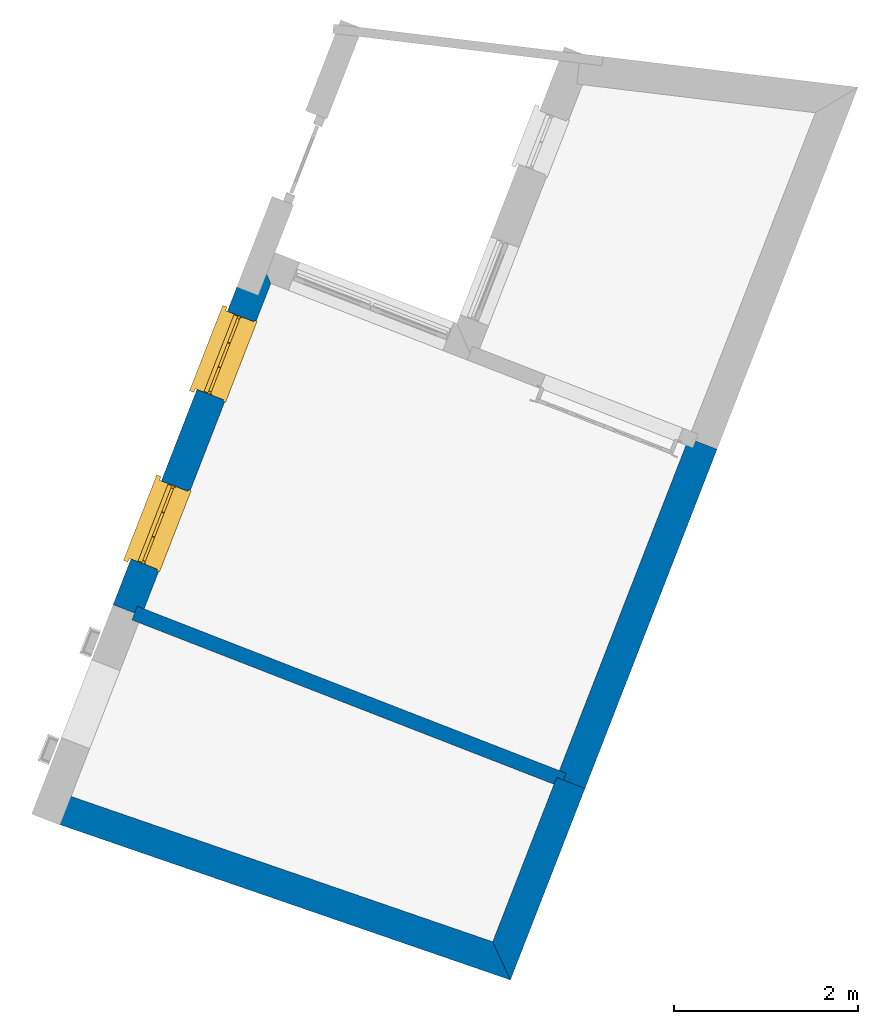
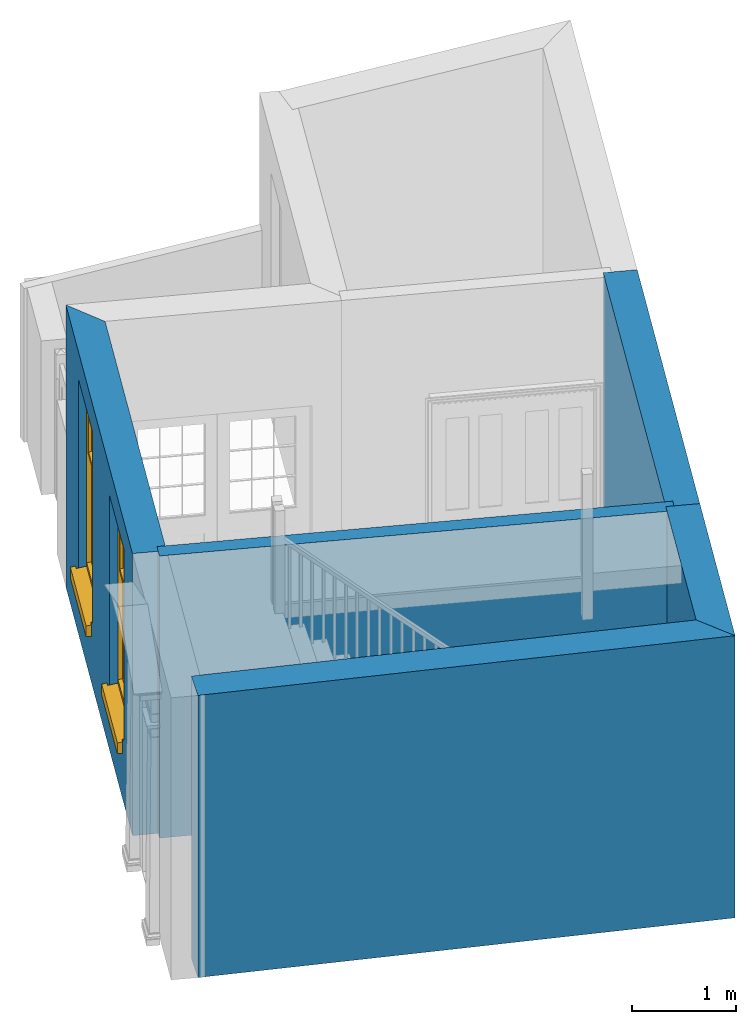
# One storey, part 3 of 6: 5 walls, 2 windows, 2 openings.
"""IFC4 building model written with IfcOpenShell, lengths in metres."""

from ifc_helpers import new_model, si_unit, frame, origin, origin_with_axes, place, context, subcontext, project, spatial, polyline, outline, extrude, faceted_brep, source, transform, mapped, material, layer, layer_set, layer_usage, type_object, type_shapes, element, fill, save


model = new_model("IFC4")

# Units and contexts
model_context = context("Model", 3, world=origin_with_axes())
body_context = subcontext(model_context, "Body", "Model", "MODEL_VIEW")
ifc_project = project(units=[si_unit("PLANEANGLEUNIT", "RADIAN"), si_unit("MASSUNIT", "GRAM", prefix="KILO"), si_unit("FORCEUNIT", "NEWTON", prefix="KILO"), si_unit("LENGTHUNIT", "METRE"), si_unit("AREAUNIT", "SQUARE_METRE"), si_unit("VOLUMEUNIT", "CUBIC_METRE")], contexts=[model_context, model_context])

# Sites, building, storey
site_1_placement = place(None, origin_with_axes())
site_1 = spatial("IfcSite", under=ifc_project, at=site_1_placement, Name="Tamar")
site_2_placement = place(site_1_placement, origin_with_axes())
site_2 = spatial("IfcSite", under=site_1, at=site_2_placement, Name="Site plot-9", CompositionType="ELEMENT")
building_placement = place(None, origin_with_axes())
building = spatial("IfcBuilding", under=site_2, at=building_placement, Name="Building plot-9", CompositionType="ELEMENT")
storey_placement = place(None, frame((0.0, 0.0, 26.8), z_axis=(0.0, 0.0, 1.0), x_axis=(1.0, 0.0, 0.0)))
storey = spatial("IfcBuildingStorey", under=building, at=storey_placement, Name="plot-9 0", CompositionType="ELEMENT", Elevation=26.8)

# Wall, openings, windows
ifc_material_1 = material(Name="Masonry")
ifc_layer_1 = layer(ifc_material_1, 0.33, ventilated=False)
ifc_layer_set_1 = layer_set([ifc_layer_1], Name="exterior_0.08_0.25")
ifc_layer_usage_1 = layer_usage(ifc_layer_set_1, "AXIS2", "POSITIVE", -0.25)
wall_type_1 = type_object("IfcWallType", Name="exterior_0.08_0.25", PredefinedType="SOLIDWALL", material=ifc_layer_set_1)
wall_1_placement = place(storey_placement, frame((225.850272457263, 320.89499479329, 0.0), z_axis=(0.0, 0.0, 1.0), x_axis=(-0.362808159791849, -0.93186385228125, 0.0)))
wall_1 = element("IfcWall", 1, at=wall_1_placement, inside=storey, type_object=wall_type_1, material=ifc_layer_usage_1, Name="exterior", context=body_context, shape_type="SweptSolid", body=[
    extrude(outline(polyline([(0.0799999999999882, 0.0800000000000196), (-0.249999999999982, -0.250000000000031), (3.95299551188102, -0.250000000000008), (3.95299551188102, 0.080000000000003), (0.0799999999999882, 0.0800000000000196)])), origin_with_axes(), (0.0, 0.0, 1.0), 3.3),
])
opening_1_placement = place(wall_1_placement, frame((0.533248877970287, 0.0, 0.75)))
opening_1 = element("IfcOpeningElement", 2, at=opening_1_placement, cuts=wall_1, Name="My Opening", ObjectType="Opening", context=body_context, shape_type="SweptSolid", body=[
    extrude(outline(polyline([(0.0, -0.269999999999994), (0.909999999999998, -0.270000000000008), (0.909999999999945, 1.09999999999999), (-5.295763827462e-14, 1.1), (0.0, -0.269999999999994)])), origin_with_axes(), (0.0, 0.0, 1.0), 2.23),
])
opening_2_placement = place(wall_1_placement, frame((2.5097466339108, 0.0, 0.75)))
opening_2 = element("IfcOpeningElement", 3, at=opening_2_placement, cuts=wall_1, Name="My Opening", ObjectType="Opening", context=body_context, shape_type="SweptSolid", body=[
    extrude(outline(polyline([(0.0, -0.269999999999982), (0.909999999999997, -0.269999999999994), (0.909999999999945, 1.1), (-5.32907051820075e-14, 1.10000000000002), (0.0, -0.269999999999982)])), origin_with_axes(), (0.0, 0.0, 1.0), 2.23),
])
window_type = type_object("IfcWindowType", Name="sash_big_taller", PartitioningType="DOUBLE_PANEL_HORIZONTAL", PredefinedType="NOTDEFINED")
shared_shape = source(origin(), body_context, "Body", "Brep", [
    faceted_brep([(0.033125, 0.145, 1.385209), (0.01, 0.145, 1.385209), (0.033125, 0.145, 1.786042), (0.876875, 0.145, 1.385209), (0.876875, 0.145, 1.786042), (0.9, 0.145, 1.385209), (0.876875, 0.145, 1.796042), (0.876875, 0.145, 2.196875), (0.9, 0.145, 2.22), (0.033125, 0.145, 2.196875), (0.033125, 0.145, 1.796042), (0.01, 0.145, 2.22), (0.876875, 0.115, 1.786042), (0.876875, 0.115, 1.385209), (0.9, 0.115, 1.347084), (0.033125, 0.115, 2.196875), (0.01, 0.115, 2.22), (0.033125, 0.115, 1.796042), (0.01, 0.115, 1.347084), (0.033125, 0.115, 1.385209), (0.033125, 0.115, 1.786042), (0.876875, 0.115, 2.196875), (0.876875, 0.115, 1.796042), (0.9, 0.115, 2.22), (0.033125, 0.145, 1.347084), (0.01, 0.145, 1.347084), (0.033125, 0.145, 0.94625), (0.876875, 0.145, 1.347084), (0.876875, 0.145, 0.94625), (0.9, 0.145, 1.347084), (0.876875, 0.145, 0.52625), (0.876875, 0.145, 0.125417), (0.9, 0.145, 0.077167), (0.033125, 0.145, 0.125417), (0.033125, 0.145, 0.52625), (0.01, 0.145, 0.077167), (-0.0425, 0.0, 0.01), (-0.0425, -0.05, 0.001667), (0.0, 0.0, 0.01), (0.9525, 0.0, 0.01), (0.91, 0.0, 0.01), (0.9525, -0.05, 0.001667), (-0.02, 0.33, 0.077167), (0.0, 0.33, 0.077167), (-0.02, 0.36, 0.077167), (0.0, 0.19, 0.077167), (0.01, 0.19, 0.077167), (0.91, 0.19, 0.077167), (0.91, 0.33, 0.077167), (0.9, 0.19, 0.077167), (0.93, 0.33, 0.077167), (0.93, 0.36, 0.077167), (0.01, 0.175, 1.385209), (0.9, 0.175, 1.385209), (0.876875, 0.175, 0.125417), (0.876875, 0.175, 0.52625), (0.9, 0.175, 0.077167), (0.876875, 0.175, 0.94625), (0.876875, 0.175, 1.347084), (0.033125, 0.175, 0.125417), (0.01, 0.175, 0.077167), (0.033125, 0.175, 0.52625), (0.033125, 0.175, 1.347084), (0.033125, 0.175, 0.94625), (-0.02, 0.33, 0.052167), (-0.02, 0.36, 0.052167), (0.93, 0.36, 0.052167), (0.93, 0.33, 0.052167), (0.91, 0.33, 0.052167), (0.0, 0.33, 0.052167), (0.91, 0.1, 0.026667), (0.0, 0.1, 0.026667), (-0.0425, -0.05, -0.123333), (0.9525, -0.05, -0.123333), (-0.0425, 0.0, -0.123333), (0.9525, 0.0, -0.123333), (0.01, 0.19, 2.22), (0.9, 0.19, 2.22), (0.0, 0.19, 2.23), (0.91, 0.19, 2.23), (0.01, 0.1, 0.077167), (0.9, 0.1, 0.077167), (0.592292, 0.145, 0.125417), (0.592292, 0.175, 0.125417), (0.317708, 0.175, 0.125417), (0.317708, 0.145, 0.125417), (0.592292, 0.145, 0.53625), (0.317708, 0.145, 0.53625), (0.317708, 0.145, 0.52625), (0.592292, 0.145, 0.52625), (0.592292, 0.175, 0.53625), (0.317708, 0.175, 0.53625), (0.592292, 0.115, 1.796042), (0.592292, 0.145, 1.796042), (0.317708, 0.145, 1.796042), (0.317708, 0.115, 1.796042), (0.317708, 0.115, 1.786042), (0.592292, 0.115, 1.786042), (0.317708, 0.145, 1.786042), (0.592292, 0.145, 1.786042), (0.602292, 0.115, 1.786042), (0.592292, 0.115, 1.385209), (0.602292, 0.115, 1.385209), (0.602292, 0.145, 1.385209), (0.592292, 0.145, 1.385209), (0.602292, 0.145, 1.786042), (0.876875, 0.145, 0.53625), (0.876875, 0.175, 0.53625), (0.602292, 0.175, 0.53625), (0.602292, 0.145, 0.53625), (0.317708, 0.175, 0.52625), (0.307708, 0.175, 0.125417), (0.307708, 0.175, 0.52625), (0.602292, 0.175, 0.52625), (0.602292, 0.175, 0.125417), (0.592292, 0.175, 0.52625), (0.307708, 0.175, 0.53625), (0.033125, 0.175, 0.53625), (0.317708, 0.175, 1.347084), (0.317708, 0.175, 0.94625), (0.307708, 0.175, 0.94625), (0.307708, 0.175, 1.347084), (0.602292, 0.175, 1.347084), (0.602292, 0.175, 0.94625), (0.592292, 0.175, 0.94625), (0.592292, 0.175, 1.347084), (0.307708, 0.145, 0.52625), (0.307708, 0.145, 0.125417), (0.307708, 0.145, 0.53625), (0.033125, 0.145, 0.53625), (0.307708, 0.145, 1.347084), (0.307708, 0.145, 0.94625), (0.592292, 0.145, 1.347084), (0.592292, 0.145, 0.94625), (0.317708, 0.145, 0.94625), (0.317708, 0.145, 1.347084), (0.602292, 0.145, 0.94625), (0.602292, 0.145, 1.347084), (0.602292, 0.145, 0.52625), (0.602292, 0.145, 0.125417), (0.307708, 0.115, 1.796042), (0.307708, 0.115, 1.786042), (0.307708, 0.115, 1.385209), (0.317708, 0.115, 1.385209), (0.317708, 0.115, 2.196875), (0.307708, 0.115, 2.196875), (0.602292, 0.115, 2.196875), (0.592292, 0.115, 2.196875), (0.602292, 0.115, 1.796042), (0.602292, 0.145, 1.796042), (0.307708, 0.145, 1.796042), (0.307708, 0.145, 2.196875), (0.317708, 0.145, 2.196875), (0.592292, 0.145, 2.196875), (0.602292, 0.145, 2.196875), (0.307708, 0.145, 1.786042), (0.317708, 0.145, 1.385209), (0.307708, 0.145, 1.385209), (0.876875, 0.175, 0.93625), (0.033125, 0.175, 0.93625), (0.033125, 0.145, 0.93625), (0.876875, 0.145, 0.93625), (0.91, 0.1, 2.23), (0.9, 0.1, 2.22), (0.01, 0.1, 2.22), (0.0, 0.1, 2.23), (0.91, 0.0, 0.0), (0.0, 0.0, 0.0), (0.91, 0.33, 0.0), (0.0, 0.33, 0.0), (0.317708, 0.145, 0.93625), (0.592292, 0.145, 0.93625), (0.317708, 0.175, 0.93625), (0.307708, 0.175, 0.93625), (0.602292, 0.175, 0.93625), (0.592292, 0.175, 0.93625), (0.307708, 0.145, 0.93625), (0.602292, 0.145, 0.93625)], [[[0, 1, 2]], [[3, 4, 5]], [[6, 7, 8]], [[9, 10, 11]], [[12, 13, 14]], [[15, 16, 17]], [[18, 19, 20]], [[21, 22, 23]], [[24, 25, 26]], [[27, 28, 29]], [[30, 31, 32]], [[33, 34, 35]], [[14, 27, 29]], [[25, 24, 18]], [[36, 37, 38]], [[39, 40, 41]], [[42, 43, 44]], [[45, 46, 43]], [[47, 48, 49]], [[50, 51, 48]], [[1, 0, 52]], [[5, 53, 3]], [[54, 55, 56]], [[57, 58, 53]], [[59, 60, 61]], [[62, 63, 52]], [[48, 43, 46, 49]], [[51, 44, 43, 48]], [[64, 42, 44, 65]], [[65, 44, 51, 66]], [[66, 51, 50, 67]], [[65, 66, 68, 69]], [[60, 56, 49, 46]], [[70, 71, 38, 40]], [[37, 41, 40, 38]], [[37, 72, 73, 41]], [[74, 75, 73, 72]], [[8, 11, 76, 77]], [[76, 78, 79, 77]], [[32, 35, 80, 81]], [[81, 80, 71, 70]], [[82, 83, 84, 85]], [[86, 87, 88, 89]], [[86, 90, 91, 87]], [[92, 93, 94, 95]], [[92, 95, 96, 97]], [[96, 98, 99, 97]], [[100, 97, 101, 102]], [[103, 104, 99, 105]], [[97, 99, 104, 101]], [[102, 103, 105, 100]], [[106, 107, 108, 109]], [[110, 84, 111, 112]], [[113, 114, 83, 115]], [[116, 112, 61, 117]], [[90, 115, 110, 91]], [[118, 119, 120, 121]], [[122, 123, 124, 125]], [[113, 108, 107, 55]], [[126, 112, 111, 127]], [[34, 61, 112, 126]], [[89, 115, 83, 82]], [[88, 110, 115, 89]], [[85, 84, 110, 88]], [[128, 116, 117, 129]], [[130, 121, 120, 131]], [[132, 125, 124, 133]], [[134, 119, 118, 135]], [[136, 123, 122, 137]], [[138, 113, 55, 30]], [[139, 114, 113, 138]], [[138, 30, 106, 109]], [[88, 126, 127, 85]], [[138, 89, 82, 139]], [[137, 132, 133, 136]], [[128, 129, 34, 126]], [[135, 130, 131, 134]], [[140, 17, 20, 141]], [[96, 141, 142, 143]], [[144, 145, 140, 95]], [[146, 147, 92, 148]], [[100, 12, 22, 148]], [[149, 6, 4, 105]], [[94, 150, 151, 152]], [[149, 93, 153, 154]], [[99, 98, 94, 93]], [[155, 2, 10, 150]], [[156, 157, 155, 98]], [[141, 155, 157, 142]], [[20, 2, 155, 141]], [[143, 156, 98, 96]], [[140, 150, 10, 17]], [[145, 151, 150, 140]], [[147, 153, 93, 92]], [[95, 94, 152, 144]], [[22, 6, 149, 148]], [[148, 149, 154, 146]], [[100, 105, 4, 12]], [[109, 86, 89, 138]], [[108, 113, 115, 90]], [[91, 110, 112, 116]], [[87, 128, 126, 88]], [[97, 100, 148, 92]], [[141, 96, 95, 140]], [[98, 155, 150, 94]], [[105, 99, 93, 149]], [[143, 101, 104, 156]], [[135, 118, 125, 132]], [[144, 152, 153, 147]], [[127, 111, 59, 33]], [[15, 9, 151, 145]], [[146, 154, 7, 21]], [[31, 54, 114, 139]], [[36, 74, 72, 37]], [[39, 41, 73, 75]], [[18, 14, 101, 143]], [[23, 16, 144, 147]], [[83, 56, 60, 84]], [[52, 53, 125, 118]], [[53, 52, 156, 104]], [[11, 8, 153, 152]], [[14, 18, 135, 132]], [[2, 1, 11, 10]], [[8, 5, 4, 6]], [[57, 53, 56, 158]], [[60, 52, 63, 159]], [[26, 25, 35, 160]], [[32, 29, 28, 161]], [[14, 23, 22, 12]], [[18, 20, 17, 16]], [[19, 0, 2, 20]], [[17, 10, 9, 15]], [[12, 4, 3, 13]], [[21, 7, 6, 22]], [[27, 58, 57, 28]], [[30, 55, 54, 31]], [[33, 59, 61, 34]], [[26, 63, 62, 24]], [[5, 8, 77, 53]], [[76, 11, 1, 52]], [[46, 45, 78, 76]], [[49, 77, 79, 47]], [[70, 162, 163, 81]], [[71, 80, 164, 165]], [[19, 142, 157, 0]], [[102, 13, 3, 103]], [[121, 130, 24, 62]], [[29, 32, 81, 14]], [[80, 35, 25, 18]], [[60, 46, 76, 52]], [[77, 49, 56, 53]], [[23, 14, 81, 163]], [[16, 164, 80, 18]], [[35, 85, 127]], [[127, 33, 35]], [[139, 82, 32]], [[32, 31, 139]], [[32, 82, 85, 35]], [[102, 101, 14]], [[14, 13, 102]], [[18, 143, 142]], [[142, 19, 18]], [[146, 21, 23]], [[23, 147, 146]], [[16, 15, 145]], [[145, 144, 16]], [[11, 152, 151]], [[151, 9, 11]], [[154, 153, 8]], [[8, 7, 154]], [[23, 163, 164, 16]], [[162, 165, 164, 163]], [[52, 118, 121]], [[121, 62, 52]], [[125, 53, 122]], [[58, 122, 53]], [[27, 137, 122, 58]], [[56, 83, 114]], [[114, 54, 56]], [[111, 84, 60]], [[60, 59, 111]], [[137, 27, 14]], [[14, 132, 137]], [[130, 135, 18]], [[18, 24, 130]], [[157, 156, 52]], [[52, 0, 157]], [[103, 3, 53]], [[53, 104, 103]], [[79, 78, 165, 162]], [[78, 45, 71, 165]], [[162, 70, 47, 79]], [[166, 75, 74, 167]], [[68, 66, 67]], [[48, 68, 67, 50]], [[69, 64, 65]], [[42, 64, 69, 43]], [[69, 68, 168, 169]], [[70, 68, 48, 47]], [[166, 168, 68, 70]], [[43, 69, 71, 45]], [[69, 169, 167, 71]], [[168, 166, 167, 169]], [[38, 167, 74, 36]], [[71, 167, 38]], [[39, 75, 166, 40]], [[40, 166, 70]], [[133, 134, 170, 171]], [[133, 124, 119, 134]], [[28, 57, 123, 136]], [[172, 91, 116, 173]], [[174, 108, 90, 175]], [[120, 173, 159, 63]], [[124, 175, 172, 119]], [[174, 123, 57, 158]], [[176, 173, 116, 128]], [[160, 159, 173, 176]], [[171, 175, 90, 86]], [[170, 172, 175, 171]], [[87, 91, 172, 170]], [[131, 120, 63, 26]], [[177, 174, 158, 161]], [[109, 108, 174, 177]], [[177, 161, 28, 136]], [[170, 176, 128, 87]], [[177, 171, 86, 109]], [[131, 26, 160, 176]], [[136, 133, 171, 177]], [[123, 174, 175, 124]], [[119, 172, 173, 120]], [[134, 131, 176, 170]], [[129, 117, 159, 160]], [[161, 158, 107, 106]], [[35, 34, 129]], [[35, 129, 160]], [[32, 106, 30]], [[32, 161, 106]], [[56, 55, 107]], [[56, 107, 158]], [[60, 117, 61]], [[60, 159, 117]]]),
])
type_shapes(window_type, [shared_shape])
window_1_placement = place(storey_placement, frame((225.40520217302, 320.496037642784, 0.75), z_axis=(0.0, 0.0, 1.0), x_axis=(-0.330155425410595, -0.84799610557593, 0.0)))
window_1 = element("IfcWindow", 4, at=window_1_placement, inside=storey, type_object=window_type, Name="living street window", OverallHeight=2.23, OverallWidth=0.91, context=body_context, shape_type="MappedRepresentation", body=[
    mapped(shared_shape, transform((0.0, 0.0, 0.0), scale=1.0)),
])
fill(opening_1, window_1)
window_2_placement = place(storey_placement, frame((224.688112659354, 318.654210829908, 0.75), z_axis=(0.0, 0.0, 1.0), x_axis=(-0.330155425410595, -0.84799610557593, 0.0)))
window_2 = element("IfcWindow", 5, at=window_2_placement, inside=storey, type_object=window_type, Name="living street window", OverallHeight=2.23, OverallWidth=0.91, context=body_context, shape_type="MappedRepresentation", body=[
    mapped(shared_shape, transform((0.0, 0.0, 0.0), scale=1.0)),
])
fill(opening_2, window_2)

# Walls
ifc_material_2 = material(Name="Masonry")
ifc_layer_2 = layer(ifc_material_2, 0.33, ventilated=False)
ifc_layer_set_2 = layer_set([ifc_layer_2], Name="party_0.08_0.25")
ifc_layer_usage_2 = layer_usage(ifc_layer_set_2, "AXIS2", "POSITIVE", -0.25)
wall_type_2 = type_object("IfcWallType", Name="party_0.08_0.25", PredefinedType="SOLIDWALL", material=ifc_layer_set_2)
wall_2_placement = place(storey_placement, frame((223.621913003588, 315.171508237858, 0.0), z_axis=(0.0, 0.0, 1.0), x_axis=(0.945414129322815, -0.325871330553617, 0.0)))
element("IfcWall", 6, at=wall_2_placement, inside=storey, type_object=wall_type_2, material=ifc_layer_usage_2, Name="party", context=body_context, shape_type="SweptSolid", body=[
    extrude(outline(polyline([(-7.42027300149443e-15, 0.0799999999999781), (1.50531088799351e-14, -0.250000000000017), (5.24422480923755, -0.25000000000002), (4.92696021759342, 0.0799999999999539), (-7.42027300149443e-15, 0.0799999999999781)])), origin_with_axes(), (0.0, 0.0, 1.0), 3.3),
])
wall_3_placement = place(storey_placement, frame((228.352645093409, 313.540889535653, 0.0), z_axis=(0.0, 0.0, 1.0), x_axis=(0.36280815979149, 0.93186385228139, 0.0)))
element("IfcWall", 7, at=wall_3_placement, inside=storey, type_object=wall_type_2, material=ifc_layer_usage_2, Name="party", context=body_context, shape_type="SweptSolid", body=[
    extrude(outline(polyline([(0.07691262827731, 0.0800000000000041), (-0.240351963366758, -0.250000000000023), (1.99214813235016, -0.249999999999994), (1.99214813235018, 0.080000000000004), (0.07691262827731, 0.0800000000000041)])), origin_with_axes(), (0.0, 0.0, 1.0), 3.3),
])
wall_4_placement = place(storey_placement, frame((229.075412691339, 315.39730036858, 0.0), z_axis=(0.0, 0.0, 1.0), x_axis=(0.362808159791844, 0.931863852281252, 0.0)))
element("IfcWall", 8, at=wall_4_placement, inside=storey, type_object=wall_type_2, material=ifc_layer_usage_2, Name="party", context=body_context, shape_type="SweptSolid", body=[
    extrude(outline(polyline([(-1.53250609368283e-14, 0.0800000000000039), (9.42732428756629e-14, -0.249999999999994), (3.95299551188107, -0.250000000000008), (3.95299551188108, 0.0800000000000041), (-1.53250609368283e-14, 0.0800000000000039)])), origin_with_axes(), (0.0, 0.0, 1.0), 3.3),
])
ifc_material_3 = material(Name="Masonry")
ifc_layer_3 = layer(ifc_material_3, 0.16, ventilated=False)
ifc_layer_set_3 = layer_set([ifc_layer_3], Name="interior_0.08_0.08")
ifc_layer_usage_3 = layer_usage(ifc_layer_set_3, "AXIS2", "POSITIVE", -0.08)
wall_type_3 = type_object("IfcWallType", Name="interior_0.08_0.08", PredefinedType="SOLIDWALL", material=ifc_layer_set_3)
wall_5_placement = place(storey_placement, frame((224.416093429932, 317.211341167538, 0.0), z_axis=(0.0, 0.0, 1.0), x_axis=(0.931863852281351, -0.36280815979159, 0.0)))
element("IfcWall", 9, at=wall_5_placement, inside=storey, type_object=wall_type_3, material=ifc_layer_usage_3, Name="interior", context=body_context, shape_type="SweptSolid", body=[
    extrude(outline(polyline([(6.48860105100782e-15, 0.0800000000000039), (-6.480634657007e-15, -0.0800000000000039), (5.00000000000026, -0.0800000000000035), (5.00000000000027, 0.080000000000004), (6.48860105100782e-15, 0.0800000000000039)])), origin_with_axes(), (0.0, 0.0, 1.0), 3.3),
])

save(model, "model.ifc")
